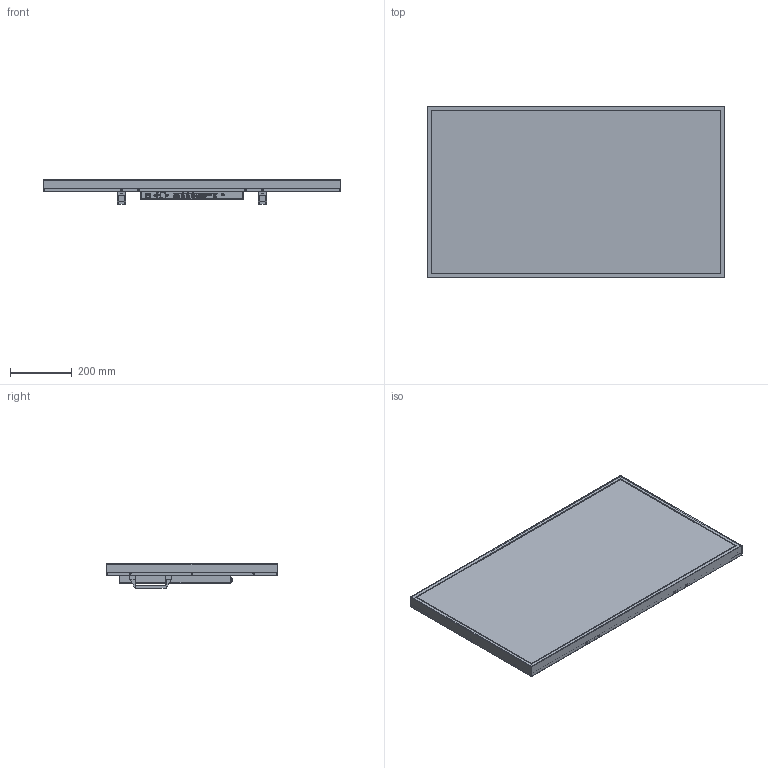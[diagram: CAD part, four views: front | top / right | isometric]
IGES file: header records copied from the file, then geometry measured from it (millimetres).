
Global section: file name: 344-420A-A-3D; native system: AutoCAD 2019 – 繁體中文 (Traditional Chinese),62HAutode; preprocessor: sk Translation Framework DWG producer (atf_dwg_producer); organization: unknown; date: 20211027.154403; units: millimetre
Bounding box: 961.2 x 554.1 x 79 mm (x, y, z)
Volume: 10672955.6 mm3; surface area: 3458530 mm2
Topology: 17 solids, 17 shells, 1997 faces, 5287 edges, 3617 vertices
Faces by surface type: bspline 1997
